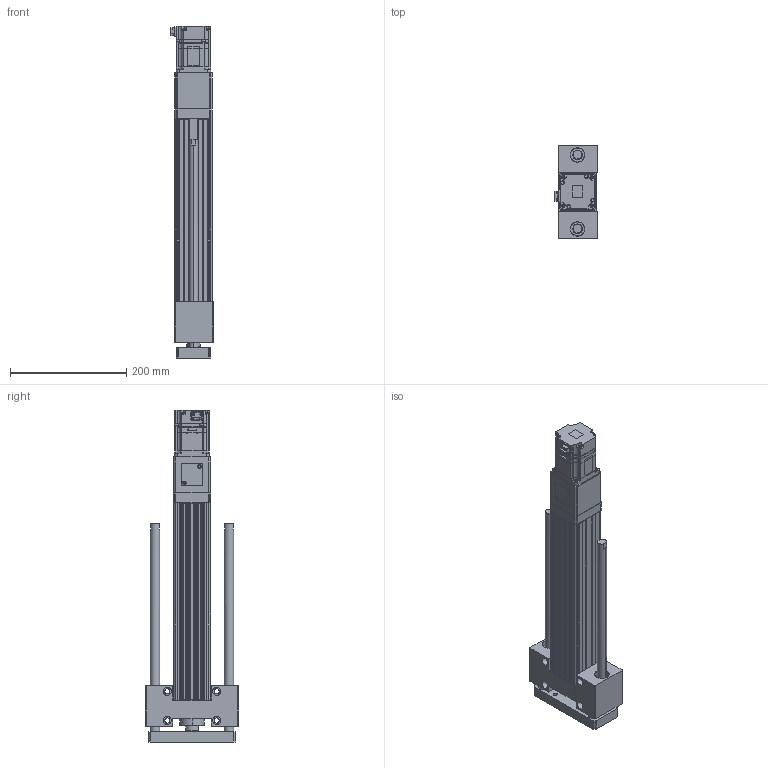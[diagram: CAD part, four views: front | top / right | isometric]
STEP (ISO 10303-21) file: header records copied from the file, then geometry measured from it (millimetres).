
FILE_DESCRIPTION (( 'STEP AP203' ), '1' );
FILE_NAME ('ANS065-HS250-05(10)-W20.STEP', '2019-03-01T04:24:12', ( 'user' ), ( '' ), 'SwSTEP 2.0', 'SolidWorks 2013', '' );
FILE_SCHEMA (( 'CONFIG_CONTROL_DESIGN' ));
Length unit declared in the file: millimetre
Products named in the file (4): sgmjv_02a_a21; ANS065-HS250-05(10)-W20; ANS065 HS250 VER2; ANS065 ROD ST250 G
Assembly tree (3 placements, depth 2):
  ANS065-HS250-05(10)-W20
    ANS065 HS250 VER2
    ANS065 ROD ST250 G
    sgmjv_02a_a21
Bounding box: 72.3 x 160 x 570.6 mm (x, y, z)
Volume: 2041319.8 mm3; surface area: 445692.4 mm2
Topology: 3 solids, 7 shells, 1237 faces, 3245 edges, 2091 vertices
Faces by surface type: plane 697, cylinder 430, cone 110
Entity records: 38305 total; most frequent: CARTESIAN_POINT 6793, DIRECTION 6569, ORIENTED_EDGE 6434, EDGE_CURVE 3217, VECTOR 2207, LINE 2207, AXIS2_PLACEMENT_3D 2181, VERTEX_POINT 2091
